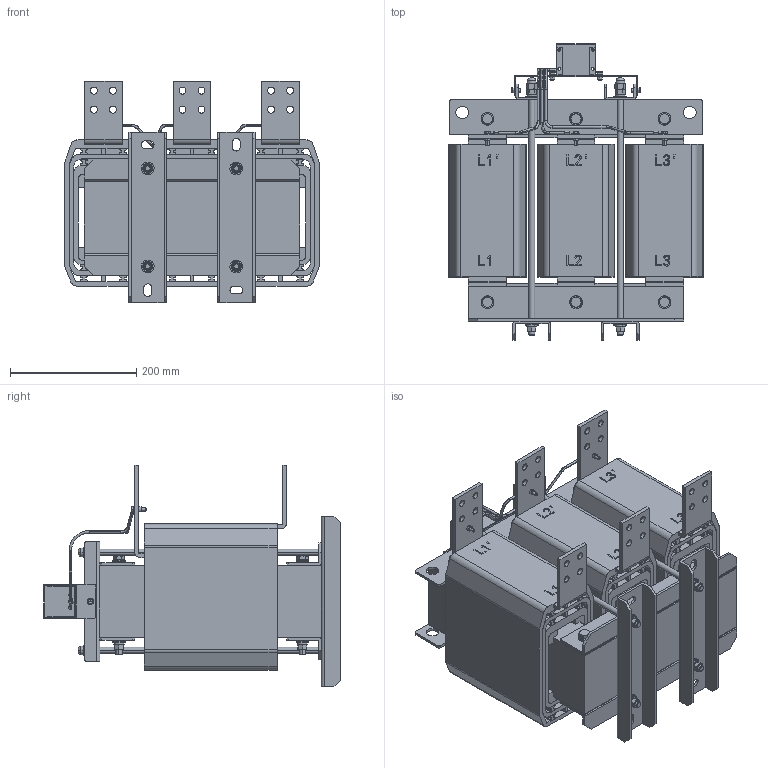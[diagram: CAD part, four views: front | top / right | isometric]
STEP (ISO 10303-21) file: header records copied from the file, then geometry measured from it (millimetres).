
FILE_DESCRIPTION (( 'STEP AP203' ), '1' );
FILE_NAME ('婰錪襝 dU_dT _ IDUDT-500_556-6.STEP', '2026-05-07T14:32:09', ( '' ), ( '' ), 'SwSTEP 2.0', 'SolidWorks 2021', '' );
FILE_SCHEMA (( 'CONFIG_CONTROL_DESIGN' ));
Length unit declared in the file: millimetre
Products named in the file (105): M5｡ﾁ10ﾂﾝﾋｨ+1ﾆｽ; DVT线圈-650A_10; M10ﾂﾝﾄｸ+ｵｯ+ﾋｫﾆｽ_4; M10ﾂﾝﾄｸ+ｵｯ+ﾆｽ; M10℅150; DVT线圈-650A_47; DVT线圈-650A_14; DVT线圈-650A_44; DVT线圈-650A_50; DVT线圈-650A_51; DVT线圈-650A_29; M10ﾂﾝﾄｸ+ｵｯ+ﾋｫﾆｽ_2; RNB5.5-5; M10ﾂﾝﾄｸ+ｵｯ+ﾋｫﾆｽ_3; plain washers--product grade c gb_GB_FASTENER_WASHER_SMWC 5; DVT线圈-650A_49; DVT线圈-650A_26; 电容引线-85; DVT线圈-650A_25; M5｡ﾁ10ﾂﾝﾋｨ+1ﾆｽ_3; ﾏﾂｼﾐｼ-340｡ﾁ55｡ﾁ35; DVT线圈-650A_45; 婰錪襝 dU_dT _ IDUDT-500_556-6; DVT线圈-650A_43; M10ﾂﾝﾄｸ+ｵｯ+ﾆｽ_1; DVT线圈-650A; DVT线圈-650A_17; DVT线圈-650A_35; DVT线圈-650A_31; DVT线圈-650A_1; W26.5¡ÁH22¡ÁT12; M5｡ﾁ20ﾂﾝﾋｨ+1ﾆｽ_2; spring lock washers--normal type gb_GB_FASTENER_WASHER_SW 10; DVT线圈-650A_42; DVT线圈-650A_48; DVT线圈-650A_18; DVT线圈-650A_56; 电容引线-85_2; DVT线圈-650A_9; plain washers--product grade c gb_GB_FASTENER_WASHER_SMWC 10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
Assembly tree (203 placements, depth 3):
  婰錪襝 dU_dT _ IDUDT-500_556-6
    三相铁芯340-60-113-H350
    拉板条1×60×350  x6
    ﾉﾏｼﾐｼ-400｡ﾁ55｡ﾁ4  x2
    ﾏﾂｼﾐｼ-340｡ﾁ55｡ﾁ35  x2
    Uﾐﾎｵﾗｽﾅ60｡ﾁ30｡ﾁ270  x2
    DVT-U形压条50×4×190  x2
    M10ﾂﾝﾄｸ+ｵｯ+ﾆｽ
      hex nut-fine pitch-style washer-grade ab gb_GB_HEXAGON_TYPE10_1 M8X1-N
      spring lock washers--normal type gb_GB_FASTENER_WASHER_SW 10
      plain washers--product grade c gb_GB_FASTENER_WASHER_SMWC 10
    M10ﾂﾝﾄｸ+ｵｯ+ﾆｽ_1
      hex nut-fine pitch-style washer-grade ab gb_GB_HEXAGON_TYPE10_1 M8X1-N
      spring lock washers--normal type gb_GB_FASTENER_WASHER_SW 10
      plain washers--product grade c gb_GB_FASTENER_WASHER_SMWC 10
    M10℅400蹟裝  x4
    M10裔簽  x4
    plain washers--product grade c gb_GB_FASTENER_WASHER_SMWC 10  x12
    M10ﾂﾝﾄｸ+ｵｯ+ﾋｫﾆｽ
      hex nut-fine pitch-style washer-grade ab gb_GB_HEXAGON_TYPE10_1 M8X1-N
      spring lock washers--normal type gb_GB_FASTENER_WASHER_SW 10
      plain washers--product grade c gb_GB_FASTENER_WASHER_SMWC 10  x2
    M10ﾂﾝﾄｸ+ｵｯ+ﾋｫﾆｽ_1
      hex nut-fine pitch-style washer-grade ab gb_GB_HEXAGON_TYPE10_1 M8X1-N
      spring lock washers--normal type gb_GB_FASTENER_WASHER_SW 10
      plain washers--product grade c gb_GB_FASTENER_WASHER_SMWC 10  x2
    M10℅150  x6
    M10ﾂﾝﾄｸ+ｵｯ+ﾆｽ_2
      hex nut-fine pitch-style washer-grade ab gb_GB_HEXAGON_TYPE10_1 M8X1-N
      spring lock washers--normal type gb_GB_FASTENER_WASHER_SW 10
      plain washers--product grade c gb_GB_FASTENER_WASHER_SMWC 10
    M10ﾂﾝﾄｸ+ｵｯ+ﾆｽ_3
      hex nut-fine pitch-style washer-grade ab gb_GB_HEXAGON_TYPE10_1 M8X1-N
      spring lock washers--normal type gb_GB_FASTENER_WASHER_SW 10
      plain washers--product grade c gb_GB_FASTENER_WASHER_SMWC 10
    M10ﾂﾝﾄｸ+ｵｯ+ﾆｽ_4
      hex nut-fine pitch-style washer-grade ab gb_GB_HEXAGON_TYPE10_1 M8X1-N
      spring lock washers--normal type gb_GB_FASTENER_WASHER_SW 10
      plain washers--product grade c gb_GB_FASTENER_WASHER_SMWC 10
    M10ﾂﾝﾄｸ+ｵｯ+ﾆｽ_5
      hex nut-fine pitch-style washer-grade ab gb_GB_HEXAGON_TYPE10_1 M8X1-N
      spring lock washers--normal type gb_GB_FASTENER_WASHER_SW 10
      plain washers--product grade c gb_GB_FASTENER_WASHER_SMWC 10
    M10ﾂﾝﾄｸ+ｵｯ+ﾆｽ_6
      hex nut-fine pitch-style washer-grade ab gb_GB_HEXAGON_TYPE10_1 M8X1-N
      spring lock washers--normal type gb_GB_FASTENER_WASHER_SW 10
      plain washers--product grade c gb_GB_FASTENER_WASHER_SMWC 10
    M10ﾂﾝﾄｸ+ｵｯ+ﾆｽ_7
      hex nut-fine pitch-style washer-grade ab gb_GB_HEXAGON_TYPE10_1 M8X1-N
      spring lock washers--normal type gb_GB_FASTENER_WASHER_SW 10
      plain washers--product grade c gb_GB_FASTENER_WASHER_SMWC 10
    M10ﾂﾝﾄｸ+ｵｯ+ﾋｫﾆｽ_2
      hex nut-fine pitch-style washer-grade ab gb_GB_HEXAGON_TYPE10_1 M8X1-N
      spring lock washers--normal type gb_GB_FASTENER_WASHER_SW 10
      plain washers--product grade c gb_GB_FASTENER_WASHER_SMWC 10  x2
    M10ﾂﾝﾄｸ+ｵｯ+ﾋｫﾆｽ_3
      hex nut-fine pitch-style washer-grade ab gb_GB_HEXAGON_TYPE10_1 M8X1-N
      spring lock washers--normal type gb_GB_FASTENER_WASHER_SW 10
      plain washers--product grade c gb_GB_FASTENER_WASHER_SMWC 10  x2
    M10ﾂﾝﾄｸ+ｵｯ+ﾋｫﾆｽ_4
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Bounding box: 402 x 469 x 350.5 mm (x, y, z)
Volume: 19962372.9 mm3; surface area: 4111506.9 mm2
Topology: 180 solids, 180 shells, 4636 faces, 11930 edges, 7801 vertices
Faces by surface type: plane 2516, cylinder 1147, bspline 655, cone 318
Entity records: 83617 total; most frequent: CARTESIAN_POINT 19045, DIRECTION 10566, ORIENTED_EDGE 10516, EDGE_CURVE 5258, LINE 3552, VECTOR 3552, AXIS2_PLACEMENT_3D 3507, VERTEX_POINT 3464
